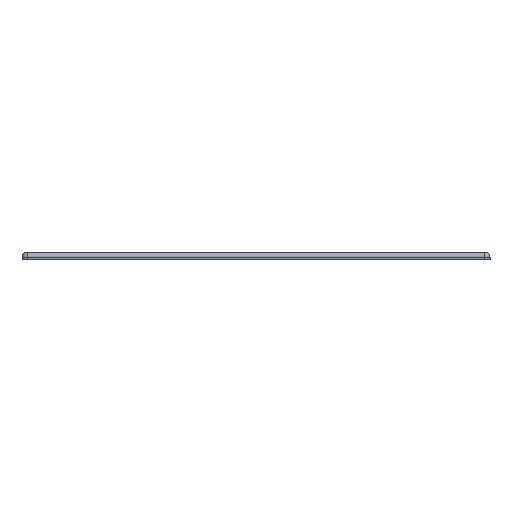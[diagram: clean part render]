
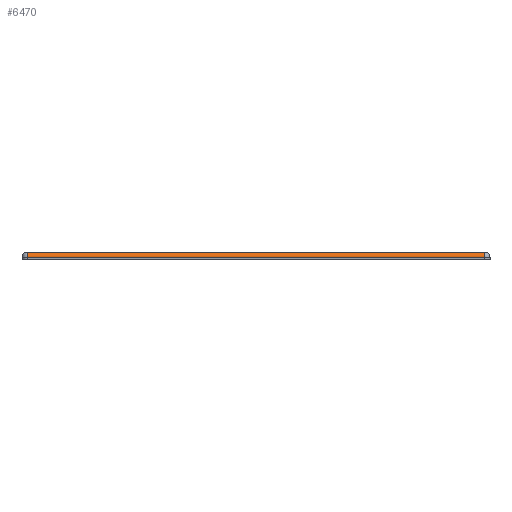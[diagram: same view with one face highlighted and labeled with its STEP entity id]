
A CAD part, front view. The second image highlights one B-rep face of the part: STEP entity #6470.
In plain terms, the highlighted cylindrical face has radius 1 mm (diameter 2 mm), a partial arc.
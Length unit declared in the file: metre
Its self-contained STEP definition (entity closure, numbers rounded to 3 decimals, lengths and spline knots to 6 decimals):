
#154=CYLINDRICAL_SURFACE('',#6826,0.001);
#266=CIRCLE('',#6823,0.001);
#268=CIRCLE('',#6827,0.001);
#2297=ORIENTED_EDGE('',*,*,#3261,.T.);
#2298=ORIENTED_EDGE('',*,*,#2990,.F.);
#2299=ORIENTED_EDGE('',*,*,#3263,.F.);
#2300=ORIENTED_EDGE('',*,*,#2330,.F.);
#2330=EDGE_CURVE('',#3271,#3272,#3897,.T.);
#2990=EDGE_CURVE('',#3895,#3896,#4281,.F.);
#3261=EDGE_CURVE('',#3271,#3896,#266,.F.);
#3263=EDGE_CURVE('',#3272,#3895,#268,.T.);
#3271=VERTEX_POINT('',#8203);
#3272=VERTEX_POINT('',#8204);
#3895=VERTEX_POINT('',#9866);
#3896=VERTEX_POINT('',#9868);
#3897=LINE('',#8202,#4550);
#4281=LINE('',#9867,#4934);
#4550=VECTOR('',#6847,1.);
#4934=VECTOR('',#7511,1.);
#5585=EDGE_LOOP('',(#2297,#2298,#2299,#2300));
#5976=FACE_BOUND('',#5585,.T.);
#6470=ADVANCED_FACE('',(#5976),#154,.T.);
#6823=AXIS2_PLACEMENT_3D('',#11015,#8160,#8161);
#6826=AXIS2_PLACEMENT_3D('',#11018,#8166,#8167);
#6827=AXIS2_PLACEMENT_3D('',#11019,#8168,#8169);
#6847=DIRECTION('',(1.,0.,0.));
#7511=DIRECTION('',(1.,0.,0.));
#8160=DIRECTION('',(-1.,0.,0.));
#8161=DIRECTION('',(0.,0.,1.));
#8166=DIRECTION('',(-1.,0.,0.));
#8167=DIRECTION('',(0.,0.,1.));
#8168=DIRECTION('',(1.,0.,0.));
#8169=DIRECTION('',(0.,0.,-1.));
#8202=CARTESIAN_POINT('',(0.030914,-0.035155,0.0015));
#8203=CARTESIAN_POINT('',(-0.058086,-0.035155,0.0015));
#8204=CARTESIAN_POINT('',(0.029914,-0.035155,0.0015));
#9866=CARTESIAN_POINT('',(0.029914,-0.036155,0.0005));
#9867=CARTESIAN_POINT('',(-0.059086,-0.036155,0.0005));
#9868=CARTESIAN_POINT('',(-0.058086,-0.036155,0.0005));
#11015=CARTESIAN_POINT('',(-0.058086,-0.035155,0.0005));
#11018=CARTESIAN_POINT('',(-0.014086,-0.035155,0.0005));
#11019=CARTESIAN_POINT('',(0.029914,-0.035155,0.0005));
